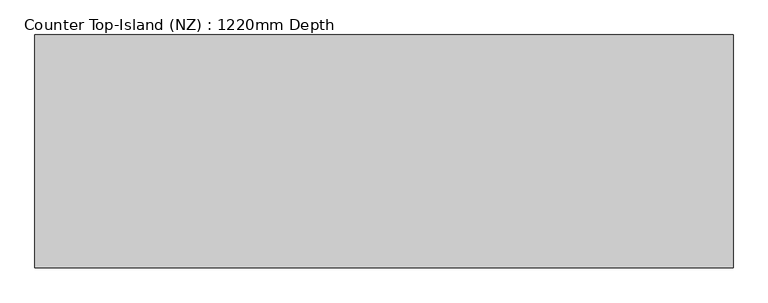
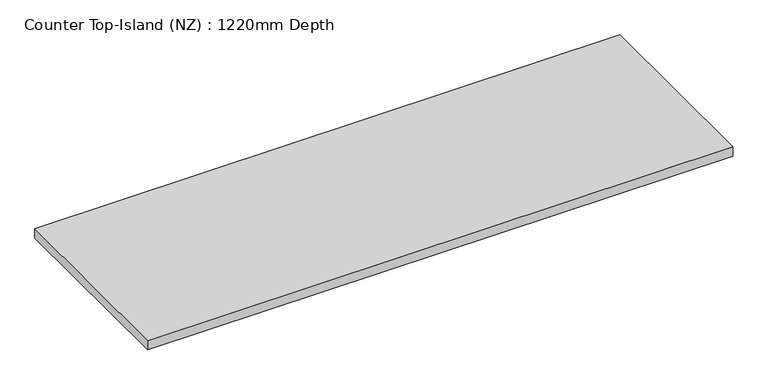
"""IFC4 building model written with IfcOpenShell, lengths in millimetres: furniture geometry, Counter Top-Island (NZ) : 1220mm Depth."""

from ifc_helpers import new_model, si_unit, frame, origin, place, context, project, spatial, polyline, outline, extrude, source, transform, mapped, element, save


def counter_top_island_nz_1220mm_depth_a1e4b738(model_context):
    return source(origin(), model_context, "Body", "SweptSolid", [
        extrude(outline(polyline([(1199.5377049, -25.4), (-1200.4622951, -25.4), (-1200.4622951, 774.6), (1199.5377049, 774.6), (1199.5377049, -25.4)])), frame((0.0, 0.0, 860.0), z_axis=(0.0, 0.0, 1.0), x_axis=(1.0, 0.0, 0.0)), (0.0, 0.0, 1.0), 40.0),
    ])


if __name__ == "__main__":
    model = new_model("IFC4")
    model_context = context("Model", 3, world=origin())
    ifc_project = project(units=[si_unit("LENGTHUNIT", "METRE", prefix="MILLI")], contexts=[model_context])
    site = spatial("IfcSite", under=ifc_project)
    building = spatial("IfcBuilding", under=site)
    placement = place(None, origin())
    counter_top_island_nz_1220mm_depth_shape = counter_top_island_nz_1220mm_depth_a1e4b738(model_context)
    element("IfcFurniture", 1, ObjectType="Counter Top-Island (NZ) : 1220mm Depth", at=placement, inside=building, context=model_context, shape_type="MappedRepresentation", body=[
        mapped(counter_top_island_nz_1220mm_depth_shape, transform((0.0, 0.0, 0.0), x_axis=(1.0, 0.0, 0.0), y_axis=(0.0, 1.0, 0.0), z_axis=(0.0, 0.0, 1.0))),
    ])
    save(model, "model.ifc")
